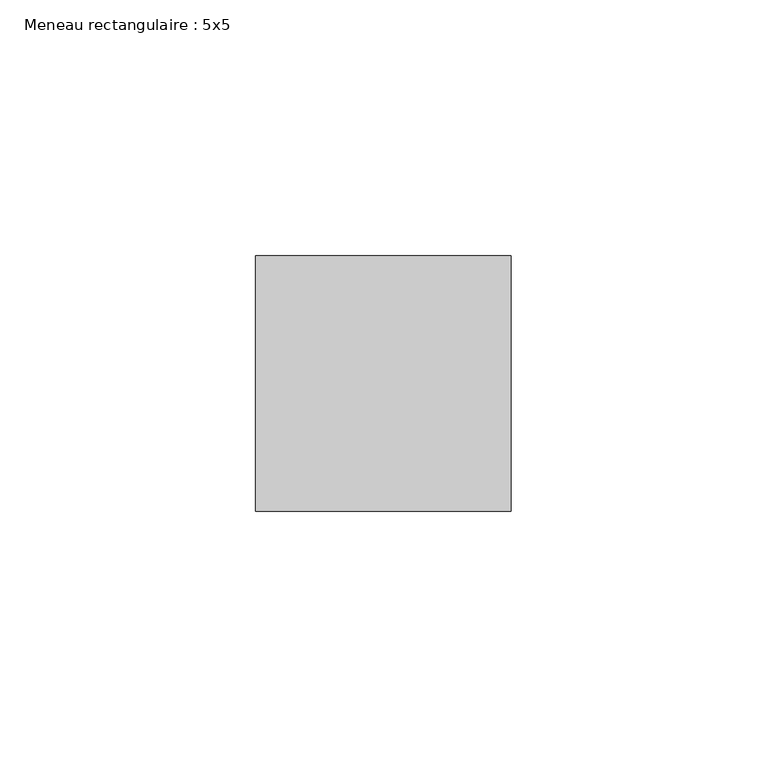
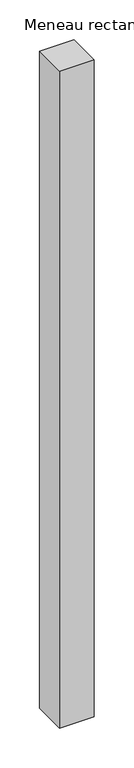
"""IFC4 building model written with IfcOpenShell, lengths in millimetres: member geometry, Meneau rectangulaire : 5x5."""

import ifcopenshell
import ifcopenshell.guid

model = None  # the IFC model being written
_history = None  # IfcOwnerHistory: only IFC2X3 demands one
_inside = {}  # id of a spatial element -> (the spatial element, [elements in it])
_under = {}  # id of a project, library or spatial element -> (it, [spatial elements below it])
_declared = {}  # id of a project -> (the project, [libraries it declares])
_typed = {}  # id of a type object -> (the type object, [elements of that type])
_made_of = {}  # id of a material, layer set ... -> (it, [elements and type objects made of it])


def new_model(schema):
    """Start an empty IFC model of exactly this schema.

    Asked for "IFC4X3", IfcOpenShell would pick the latest addendum, in which some entities
    have other attributes; the version numbers below select the first issue.
    IFC2X3 requires an IfcOwnerHistory on every rooted entity: one is made here for all.
    """
    global model, _history
    if schema == "IFC4X3":
        model = ifcopenshell.file(schema_version=(4, 3, 0, 0))
    else:
        model = ifcopenshell.file(schema=schema)
    _inside.clear()
    _under.clear()
    _declared.clear()
    _typed.clear()
    _made_of.clear()
    _history = None
    if model.schema == "IFC2X3":
        org = make("IfcOrganization", Name="unknown")
        user = make(
            "IfcPersonAndOrganization",
            ThePerson=make("IfcPerson", FamilyName="unknown"),
            TheOrganization=org,
        )
        app = make(
            "IfcApplication",
            ApplicationDeveloper=org,
            Version="unknown",
            ApplicationFullName="unknown",
            ApplicationIdentifier="unknown",
        )
        _history = make(
            "IfcOwnerHistory",
            OwningUser=user,
            OwningApplication=app,
            ChangeAction="ADDED",
            CreationDate=0,
        )
    return model


def make(cls, **values):
    """One entity of the class cls with the attributes given. An attribute that is None is left unset."""
    return model.create_entity(
        cls, **{name: value for name, value in values.items() if value is not None}
    )


def rooted(cls, **values):
    """An entity with a GlobalId (a new one), such as an element, a storey or a relation."""
    return make(cls, GlobalId=ifcopenshell.guid.new(), OwnerHistory=_history, **values)


def si_unit(unit_type, name, prefix=None):
    """IfcSIUnit, for example si_unit("LENGTHUNIT", "METRE", prefix="MILLI")."""
    return make("IfcSIUnit", UnitType=unit_type, Prefix=prefix, Name=name)


def assignment(units):
    """IfcUnitAssignment: the units of a project."""
    return None if units is None else make("IfcUnitAssignment", Units=units)


def point(xyz):
    """IfcCartesianPoint."""
    return None if xyz is None else make("IfcCartesianPoint", Coordinates=xyz)


def direction(xyz):
    """IfcDirection."""
    return None if xyz is None else make("IfcDirection", DirectionRatios=xyz)


def frame(location, z_axis=None, x_axis=None):
    """IfcAxis2Placement3D, a coordinate frame: its origin and axes. An axis left out is left unset."""
    return make(
        "IfcAxis2Placement3D",
        Location=point(location),
        Axis=direction(z_axis),
        RefDirection=direction(x_axis),
    )


def origin():
    """The frame at (0, 0, 0) with its axes left unset."""
    return frame((0.0, 0.0, 0.0))


def place(relative_to, where):
    """IfcLocalPlacement: puts the frame where relative to a parent placement (None: the world)."""
    return make(
        "IfcLocalPlacement", PlacementRelTo=relative_to, RelativePlacement=where
    )


def context(
    kind, dimensions, precision=None, world=None, true_north=None, identifier=None
):
    """IfcGeometricRepresentationContext, for example the 3D "Model" context."""
    return make(
        "IfcGeometricRepresentationContext",
        ContextIdentifier=identifier,
        ContextType=kind,
        CoordinateSpaceDimension=dimensions,
        Precision=precision,
        WorldCoordinateSystem=world,
        TrueNorth=true_north,
    )


def project(units=None, contexts=None):
    """IfcProject with its units and contexts."""
    return rooted(
        "IfcProject",
        Name="project",
        RepresentationContexts=contexts,
        UnitsInContext=assignment(units),
    )


def spatial(cls, under=None, at=None, **own):
    """A site, building, storey or space (cls), placed at a placement, below another one or the project."""
    s = rooted(cls, ObjectPlacement=at, **own)
    if under is not None:
        _under.setdefault(under.id(), (under, []))[1].append(s)
    return s


def polyline(points):
    """IfcPolyline through the points."""
    return make("IfcPolyline", Points=[point(p) for p in points])


def outline(outer, holes=None, kind="AREA"):
    """IfcArbitraryClosedProfileDef: a profile drawn as a closed curve; with holes, ...WithVoids."""
    if holes is None:
        return make("IfcArbitraryClosedProfileDef", ProfileType=kind, OuterCurve=outer)
    return make(
        "IfcArbitraryProfileDefWithVoids",
        ProfileType=kind,
        OuterCurve=outer,
        InnerCurves=holes,
    )


def extrude(swept, where, along, depth):
    """IfcExtrudedAreaSolid: the profile swept, set in the frame where, extruded along a direction by depth."""
    return make(
        "IfcExtrudedAreaSolid",
        SweptArea=swept,
        Position=where,
        ExtrudedDirection=direction(along),
        Depth=depth,
    )


def shape(context_of_items, identifier, shape_type, items):
    """IfcShapeRepresentation: the items that make up one representation, for example the "Body"."""
    return make(
        "IfcShapeRepresentation",
        ContextOfItems=context_of_items,
        RepresentationIdentifier=identifier,
        RepresentationType=shape_type,
        Items=items,
    )


def source(mapping_origin, context_of_items, identifier, shape_type, items):
    """IfcRepresentationMap: a shape defined once, which mapped items show again and again."""
    return make(
        "IfcRepresentationMap",
        MappingOrigin=mapping_origin,
        MappedRepresentation=shape(context_of_items, identifier, shape_type, items),
    )


def transform(
    local_origin,
    x_axis=None,
    y_axis=None,
    z_axis=None,
    scale=None,
    scale2=None,
    scale3=None,
    uniform=True,
):
    """IfcCartesianTransformationOperator3D, or its non-uniform kind. x_axis, y_axis, z_axis: its Axis1, 2, 3."""
    if uniform:
        return make(
            "IfcCartesianTransformationOperator3D",
            Axis1=direction(x_axis),
            Axis2=direction(y_axis),
            LocalOrigin=point(local_origin),
            Scale=scale,
            Axis3=direction(z_axis),
        )
    return make(
        "IfcCartesianTransformationOperator3DnonUniform",
        Axis1=direction(x_axis),
        Axis2=direction(y_axis),
        LocalOrigin=point(local_origin),
        Scale=scale,
        Axis3=direction(z_axis),
        Scale2=scale2,
        Scale3=scale3,
    )


def mapped(mapping_source, mapping_target):
    """IfcMappedItem: shows the shape of a source again, moved by a transform."""
    return make(
        "IfcMappedItem", MappingSource=mapping_source, MappingTarget=mapping_target
    )


def made_of(thing, what):
    """Note that an element or type object is made of a material, layer set ...; save() writes the relation."""
    if what is not None:
        _made_of.setdefault(what.id(), (what, []))[1].append(thing)
    return thing


def element(
    cls,
    number,
    at=None,
    inside=None,
    cuts=None,
    type_object=None,
    material=None,
    context=None,
    identifier="Body",
    shape_type=None,
    held_by="IfcProductDefinitionShape",
    body=None,
    shapes=None,
    **own,
):
    """One element of the class cls, such as IfcWall. Its Tag is "e" and its number.

    at: its placement. inside: the storey or other place that contains it. cuts: it is an
    opening in that element (IfcRelVoidsElement). A single representation is given by context,
    identifier, shape_type and body (its items); several are given by shapes. held_by: the class
    of the entity that holds the representations. save() writes the other relations.
    """
    e = rooted(cls, Tag="e%d" % number, ObjectPlacement=at, **own)
    if body is not None:
        shapes = [shape(context, identifier, shape_type, body)]
    if shapes is not None:
        e.Representation = make(held_by, Representations=shapes)
    if inside is not None:
        _inside.setdefault(inside.id(), (inside, []))[1].append(e)
    if cuts is not None:
        rooted(
            "IfcRelVoidsElement", RelatingBuildingElement=cuts, RelatedOpeningElement=e
        )
    if type_object is not None:
        _typed.setdefault(type_object.id(), (type_object, []))[1].append(e)
    return made_of(e, material)


def aggregate(whole, parts):
    """IfcRelAggregates: a whole, such as a stair, and the parts it consists of."""
    return rooted("IfcRelAggregates", RelatingObject=whole, RelatedObjects=parts)


def save(model, path):
    """Write the relations noted so far, then the file.

    IfcRelAggregates (storeys below a building ...), IfcRelContainedInSpatialStructure (elements
    in a storey), IfcRelDefinesByType, IfcRelAssociatesMaterial and IfcRelDeclares: one each for
    every whole, place, type object, material and project.
    """
    for whole, parts in _under.values():
        aggregate(whole, parts)
    for where, things in _inside.values():
        rooted(
            "IfcRelContainedInSpatialStructure",
            RelatedElements=things,
            RelatingStructure=where,
        )
    for kind, things in _typed.values():
        rooted("IfcRelDefinesByType", RelatedObjects=things, RelatingType=kind)
    for what, things in _made_of.values():
        rooted("IfcRelAssociatesMaterial", RelatedObjects=things, RelatingMaterial=what)
    for by, libraries in _declared.values():
        rooted("IfcRelDeclares", RelatingContext=by, RelatedDefinitions=libraries)
    model.write(path)


def meneau_rectangulaire_5x5_16634752(model_context):
    return source(origin(), model_context, "Body", "SweptSolid", [
        extrude(outline(polyline([(0.0, 25.0), (0.0, -25.0), (-50.0, -25.0), (-50.0, 25.0), (0.0, 25.0)])), frame((0.0, 0.0, -1006.9722773), z_axis=(0.0, 0.0, 1.0), x_axis=(1.0, 0.0, 0.0)), (0.0, 0.0, 1.0), 1006.9722773),
    ])


if __name__ == "__main__":
    model = new_model("IFC4")
    model_context = context("Model", 3, world=origin())
    ifc_project = project(units=[si_unit("LENGTHUNIT", "METRE", prefix="MILLI")], contexts=[model_context])
    site = spatial("IfcSite", under=ifc_project)
    building = spatial("IfcBuilding", under=site)
    placement = place(None, origin())
    meneau_rectangulaire_5x5_shape = meneau_rectangulaire_5x5_16634752(model_context)
    element("IfcMember", 1, ObjectType="Meneau rectangulaire : 5x5", at=placement, inside=building, context=model_context, shape_type="MappedRepresentation", body=[
        mapped(meneau_rectangulaire_5x5_shape, transform((0.0, 0.0, 0.0), x_axis=(1.0, 0.0, 0.0), y_axis=(0.0, 1.0, 0.0), z_axis=(0.0, 0.0, 1.0))),
    ])
    save(model, "model.ifc")
